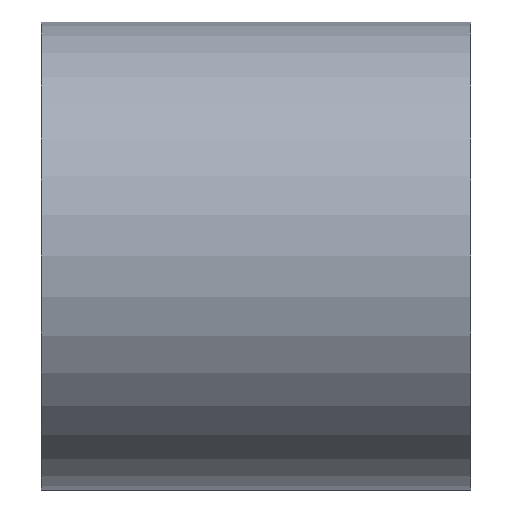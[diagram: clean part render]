
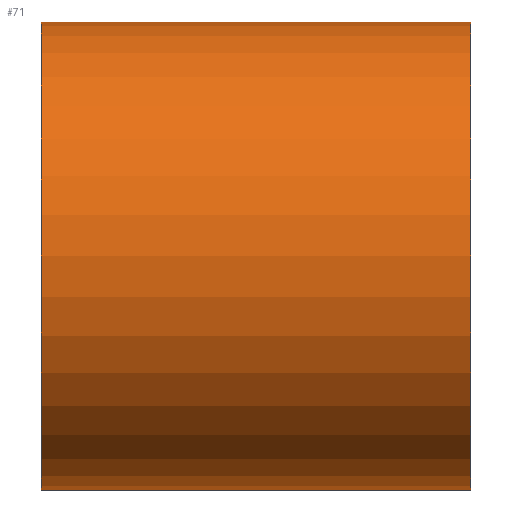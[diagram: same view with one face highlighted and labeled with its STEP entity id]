
A CAD part, front view. The second image highlights one B-rep face of the part: STEP entity #71.
In plain terms, the highlighted cylindrical face has radius 49 mm (diameter 98 mm), a partial arc.
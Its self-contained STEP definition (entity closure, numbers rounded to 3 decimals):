
#13 = ORIENTED_EDGE ( 'NONE', *, *, #41, .F. ) ;
#26 = VERTEX_POINT ( 'NONE', #304 ) ;
#41 = EDGE_CURVE ( 'NONE', #1399, #26, #411, .T. ) ;
#49 = EDGE_LOOP ( 'NONE', ( #13, #1390, #1328, #1278 ) ) ;
#71 = ADVANCED_FACE ( 'NONE', ( #712 ), #713, .T. ) ;
#111 = EDGE_CURVE ( 'NONE', #1399, #1424, #989, .T. ) ;
#170 = CARTESIAN_POINT ( 'NONE',  ( 90., 0., 49. ) ) ;
#304 = CARTESIAN_POINT ( 'NONE',  ( 0., 0., -49. ) ) ;
#366 = CARTESIAN_POINT ( 'NONE',  ( 0., 0., 49. ) ) ;
#381 = CIRCLE ( 'NONE', #382, 49. ) ;
#382 = AXIS2_PLACEMENT_3D ( 'NONE', #383, #384, #385 ) ;
#383 = CARTESIAN_POINT ( 'NONE',  ( 0., 0., 0. ) ) ;
#384 = DIRECTION ( 'NONE',  ( -1., 0., 0. ) ) ;
#385 = DIRECTION ( 'NONE',  ( 0., 0., 1. ) ) ;
#411 = LINE ( 'NONE', #412, #413 ) ;
#412 = CARTESIAN_POINT ( 'NONE',  ( 0., 0., -49. ) ) ;
#413 = VECTOR ( 'NONE', #414, 1000. ) ;
#414 = DIRECTION ( 'NONE',  ( -1., 0., 0. ) ) ;
#702 = CARTESIAN_POINT ( 'NONE',  ( 90., 0., -49. ) ) ;
#712 = FACE_OUTER_BOUND ( 'NONE', #49, .T. ) ;
#713 = CYLINDRICAL_SURFACE ( 'NONE', #714, 49. ) ;
#714 = AXIS2_PLACEMENT_3D ( 'NONE', #715, #716, #717 ) ;
#715 = CARTESIAN_POINT ( 'NONE',  ( 0., 0., 0. ) ) ;
#716 = DIRECTION ( 'NONE',  ( -1., 0., 0. ) ) ;
#717 = DIRECTION ( 'NONE',  ( 0., 0., 1. ) ) ;
#772 = LINE ( 'NONE', #773, #774 ) ;
#773 = CARTESIAN_POINT ( 'NONE',  ( 0., 0., 49. ) ) ;
#774 = VECTOR ( 'NONE', #775, 1000. ) ;
#775 = DIRECTION ( 'NONE',  ( -1., 0., 0. ) ) ;
#989 = CIRCLE ( 'NONE', #990, 49. ) ;
#990 = AXIS2_PLACEMENT_3D ( 'NONE', #991, #992, #993 ) ;
#991 = CARTESIAN_POINT ( 'NONE',  ( 90., 0., 0. ) ) ;
#992 = DIRECTION ( 'NONE',  ( -1., 0., 0. ) ) ;
#993 = DIRECTION ( 'NONE',  ( 0., 0., 1. ) ) ;
#1232 = EDGE_CURVE ( 'NONE', #26, #1355, #381, .T. ) ;
#1278 = ORIENTED_EDGE ( 'NONE', *, *, #1232, .F. ) ;
#1328 = ORIENTED_EDGE ( 'NONE', *, *, #1409, .T. ) ;
#1355 = VERTEX_POINT ( 'NONE', #366 ) ;
#1390 = ORIENTED_EDGE ( 'NONE', *, *, #111, .T. ) ;
#1399 = VERTEX_POINT ( 'NONE', #702 ) ;
#1409 = EDGE_CURVE ( 'NONE', #1424, #1355, #772, .T. ) ;
#1424 = VERTEX_POINT ( 'NONE', #170 ) ;
